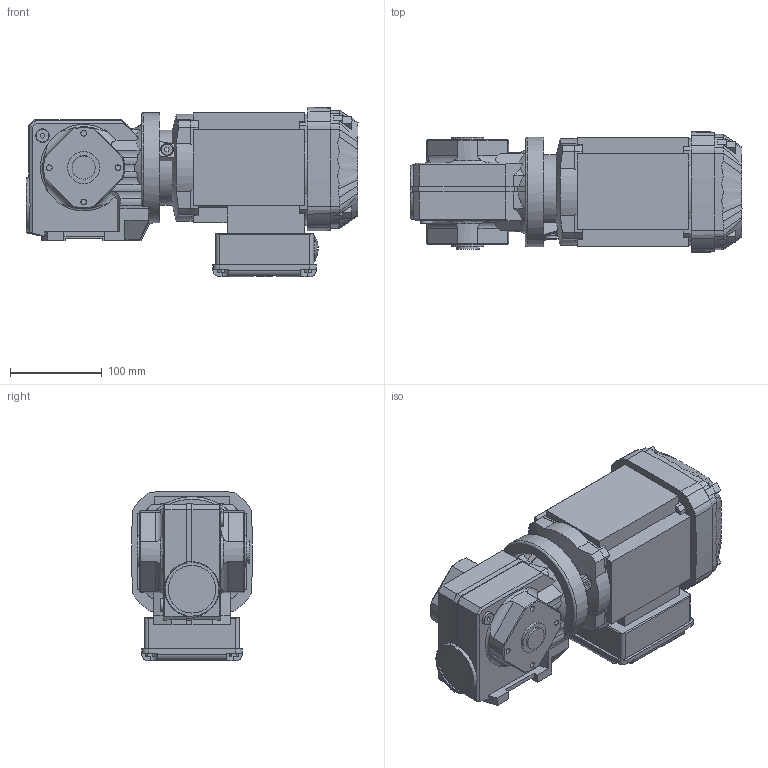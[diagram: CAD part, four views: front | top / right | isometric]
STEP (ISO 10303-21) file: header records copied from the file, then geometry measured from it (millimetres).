
FILE_DESCRIPTION(/* description */ ('SEW SA37 WITH MOTOR 0,37kW'),/* implementation_level */ '2;1');
FILE_NAME(/* name */ 'C:\Users\mikael.ljungberg\OneDrive - Carryline AB\Skrivbordet\Tillfalliga_filer\900-4050.stp',/* time_stamp */ '2021-04-22T08:37:58+02:00',/* author */ ('ML'),/* organization */ ('CARRYLINE'),/* preprocessor_version */ 'ST-DEVELOPER v18.1',/* originating_system */ 'Autodesk Inventor 2020',/* authorisation */ 'ML');
FILE_SCHEMA (('AUTOMOTIVE_DESIGN { 1 0 10303 214 3 1 1 }'));
Length unit declared in the file: millimetre
Products named in the file (1): 900-4050
Bounding box: 362.7 x 131.82 x 184.91 mm (x, y, z)
Volume: 4904770.4 mm3; surface area: 266063.2 mm2
Topology: 1 solids, 4 shells, 643 faces, 1763 edges, 1167 vertices
Faces by surface type: plane 358, cylinder 190, cone 52, bspline 33, torus 8, sphere 2
Full cylindrical faces by diameter (mm): 6 x9, 6.6 x4, 14 x2, 15 x2, 20 x1, 25 x1, 28 x1, 35 x2, 52 x1, 120 x1
Entity records: 22869 total; most frequent: CARTESIAN_POINT 6301, ORIENTED_EDGE 3524, DIRECTION 3410, EDGE_CURVE 1762, AXIS2_PLACEMENT_3D 1182, VERTEX_POINT 1167, LINE 1046, VECTOR 1046
